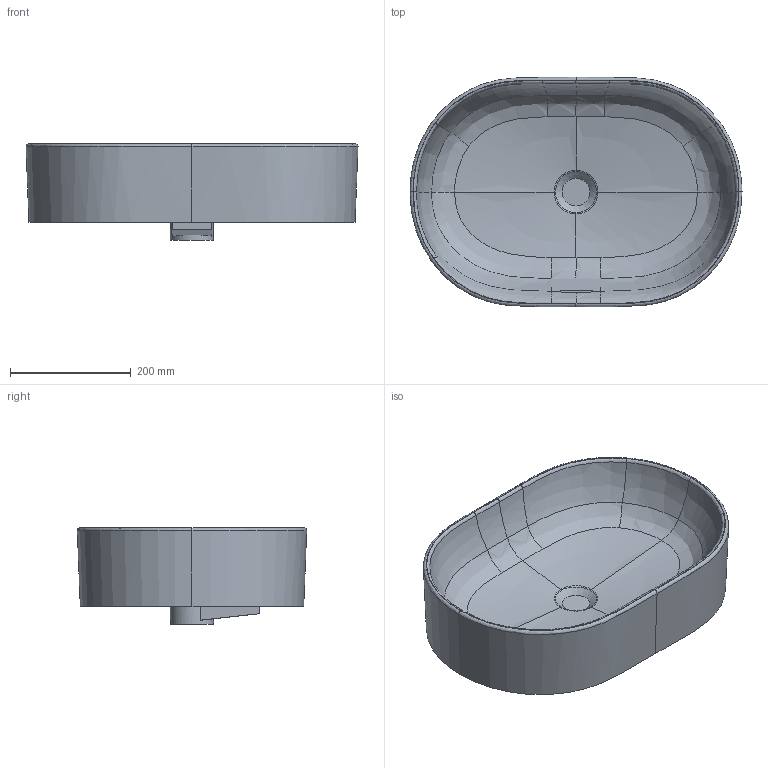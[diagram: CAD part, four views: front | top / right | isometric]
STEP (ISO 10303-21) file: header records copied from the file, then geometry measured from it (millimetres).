
FILE_DESCRIPTION(/* description */ (''),/* implementation_level */ '2;1');
FILE_NAME(/* name */ '12944BIM.stp',/* time_stamp */ '2023-06-21T16:42:29+02:00',/* author */ (''),/* organization */ (''),/* preprocessor_version */ 'ST-DEVELOPER v16.7',/* originating_system */ 'SIEMENS PLM Software NX 1946',/* authorisation */ '');
FILE_SCHEMA (('AUTOMOTIVE_DESIGN { 1 0 10303 214 3 1 1 1 }'));
Length unit declared in the file: millimetre
Products named in the file (1): pors32A0A7D9lhm0
Bounding box: 549.86 x 379.87 x 160 mm (x, y, z)
Volume: 8587244.6 mm3; surface area: 648454.8 mm2
Topology: 1 solids, 1 shells, 74 faces, 175 edges, 108 vertices
Faces by surface type: bspline 49, plane 14, extrusion 6, cylinder 4, cone 1
Full cylindrical faces by diameter (mm): 12 x2, 71.577 x1
Entity records: 10384 total; most frequent: CARTESIAN_POINT 9087, ORIENTED_EDGE 338, EDGE_CURVE 169, B_SPLINE_CURVE_WITH_KNOTS 113, VERTEX_POINT 106, DIRECTION 103, EDGE_LOOP 83, ADVANCED_FACE 74
